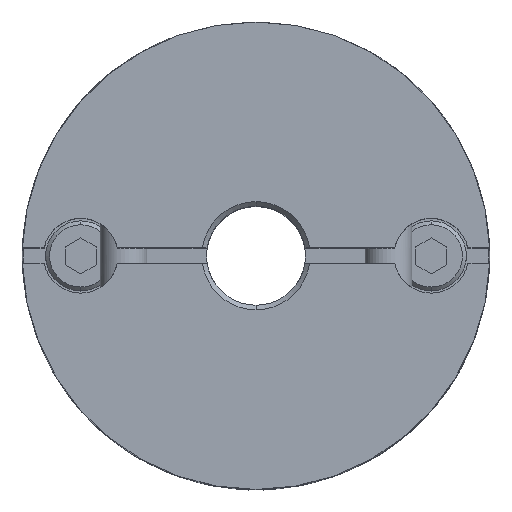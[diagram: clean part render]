
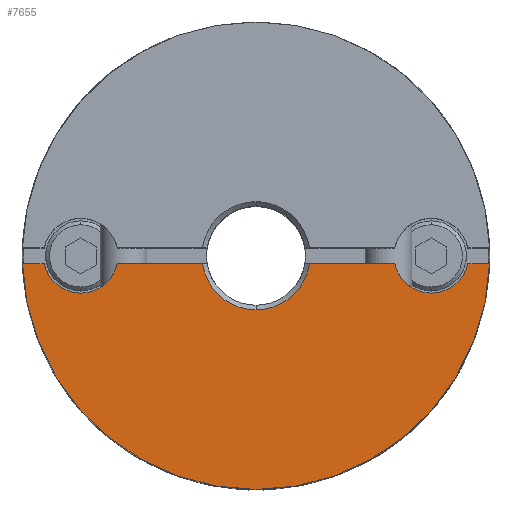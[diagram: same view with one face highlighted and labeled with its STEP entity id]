
A CAD part, top view. The second image highlights one B-rep face of the part: STEP entity #7655.
In plain terms, the highlighted planar face has unit normal (0, 0, 1).
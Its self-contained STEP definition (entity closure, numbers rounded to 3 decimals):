
#622=CARTESIAN_POINT('',(0.,-15.0,11.8));
#623=VERTEX_POINT('',#622);
#630=CARTESIAN_POINT('',(-14.992,-0.5,11.8));
#631=VERTEX_POINT('',#630);
#632=CARTESIAN_POINT('',(0.0,0.0,11.8));
#633=DIRECTION('',(0.0,0.0,-1.0));
#634=DIRECTION('',(0.0,1.0,0.0));
#635=AXIS2_PLACEMENT_3D('',#632,#633,#634);
#636=CIRCLE('',#635,15.0);
#637=EDGE_CURVE('',#623,#631,#636,.T.);
#1032=CARTESIAN_POINT('',(0.,-3.475,11.8));
#1033=VERTEX_POINT('',#1032);
#1041=CARTESIAN_POINT('',(-3.439,-0.5,11.8));
#1042=VERTEX_POINT('',#1041);
#1056=CARTESIAN_POINT('',(0.0,0.0,11.8));
#1057=DIRECTION('',(0.0,0.0,1.0));
#1058=DIRECTION('',(0.0,-1.0,0.0));
#1059=AXIS2_PLACEMENT_3D('',#1056,#1057,#1058);
#1060=CIRCLE('',#1059,3.475);
#1061=EDGE_CURVE('',#1042,#1033,#1060,.T.);
#1353=CARTESIAN_POINT('',(-11.25,-2.4,11.8));
#1354=VERTEX_POINT('',#1353);
#1370=CARTESIAN_POINT('',(-13.597,-0.5,11.8));
#1371=VERTEX_POINT('',#1370);
#1378=CARTESIAN_POINT('',(-11.25,0.,11.8));
#1379=DIRECTION('',(0.0,0.0,-1.0));
#1380=DIRECTION('',(0.0,1.0,0.0));
#1381=AXIS2_PLACEMENT_3D('',#1378,#1379,#1380);
#1382=CIRCLE('',#1381,2.4);
#1383=EDGE_CURVE('',#1354,#1371,#1382,.T.);
#1585=CARTESIAN_POINT('',(11.25,-2.4,11.8));
#1586=VERTEX_POINT('',#1585);
#1652=CARTESIAN_POINT('',(8.903,-0.5,11.8));
#1653=VERTEX_POINT('',#1652);
#1660=CARTESIAN_POINT('',(11.25,0.,11.8));
#1661=DIRECTION('',(0.0,0.0,-1.0));
#1662=DIRECTION('',(0.0,1.0,0.0));
#1663=AXIS2_PLACEMENT_3D('',#1660,#1661,#1662);
#1664=CIRCLE('',#1663,2.4);
#1665=EDGE_CURVE('',#1586,#1653,#1664,.T.);
#6153=CARTESIAN_POINT('',(13.597,-0.5,11.8));
#6154=VERTEX_POINT('',#6153);
#6155=CARTESIAN_POINT('',(11.25,0.,11.8));
#6156=DIRECTION('',(0.0,0.0,-1.0));
#6157=DIRECTION('',(0.0,1.0,0.0));
#6158=AXIS2_PLACEMENT_3D('',#6155,#6156,#6157);
#6159=CIRCLE('',#6158,2.4);
#6160=EDGE_CURVE('',#6154,#1586,#6159,.T.);
#6560=CARTESIAN_POINT('',(-8.903,-0.5,11.8));
#6561=VERTEX_POINT('',#6560);
#6562=CARTESIAN_POINT('',(-11.25,0.,11.8));
#6563=DIRECTION('',(0.0,0.0,-1.0));
#6564=DIRECTION('',(0.0,1.0,0.0));
#6565=AXIS2_PLACEMENT_3D('',#6562,#6563,#6564);
#6566=CIRCLE('',#6565,2.4);
#6567=EDGE_CURVE('',#6561,#1354,#6566,.T.);
#6690=CARTESIAN_POINT('',(-3.439,-0.5,11.8));
#6691=DIRECTION('',(-1.0,0.0,0.0));
#6692=VECTOR('',#6691,5.464);
#6693=LINE('',#6690,#6692);
#6694=EDGE_CURVE('',#1042,#6561,#6693,.T.);
#6807=CARTESIAN_POINT('',(3.439,-0.5,11.8));
#6808=VERTEX_POINT('',#6807);
#6822=CARTESIAN_POINT('',(8.903,-0.5,11.8));
#6823=DIRECTION('',(-1.0,0.0,0.0));
#6824=VECTOR('',#6823,5.464);
#6825=LINE('',#6822,#6824);
#6826=EDGE_CURVE('',#1653,#6808,#6825,.T.);
#7402=CARTESIAN_POINT('',(14.992,-0.5,11.8));
#7403=VERTEX_POINT('',#7402);
#7404=CARTESIAN_POINT('',(14.992,-0.5,11.8));
#7405=DIRECTION('',(-1.0,0.0,0.0));
#7406=VECTOR('',#7405,1.394);
#7407=LINE('',#7404,#7406);
#7408=EDGE_CURVE('',#7403,#6154,#7407,.T.);
#7522=CARTESIAN_POINT('',(-13.597,-0.5,11.8));
#7523=DIRECTION('',(-1.0,0.0,0.0));
#7524=VECTOR('',#7523,1.394);
#7525=LINE('',#7522,#7524);
#7526=EDGE_CURVE('',#1371,#631,#7525,.T.);
#7624=CARTESIAN_POINT('',(0.,1.364,11.8));
#7625=DIRECTION('',(0.0,0.0,1.0));
#7626=DIRECTION('',(0.0,1.0,0.0));
#7627=AXIS2_PLACEMENT_3D('',#7624,#7625,#7626);
#7628=PLANE('',#7627);
#7629=ORIENTED_EDGE('',*,*,#6160,.T.);
#7630=ORIENTED_EDGE('',*,*,#1665,.T.);
#7631=ORIENTED_EDGE('',*,*,#6826,.T.);
#7632=CARTESIAN_POINT('',(0.0,0.0,11.8));
#7633=DIRECTION('',(0.0,0.0,1.0));
#7634=DIRECTION('',(0.0,-1.0,0.0));
#7635=AXIS2_PLACEMENT_3D('',#7632,#7633,#7634);
#7636=CIRCLE('',#7635,3.475);
#7637=EDGE_CURVE('',#1033,#6808,#7636,.T.);
#7638=ORIENTED_EDGE('',*,*,#7637,.F.);
#7639=ORIENTED_EDGE('',*,*,#1061,.F.);
#7640=ORIENTED_EDGE('',*,*,#6694,.T.);
#7641=ORIENTED_EDGE('',*,*,#6567,.T.);
#7642=ORIENTED_EDGE('',*,*,#1383,.T.);
#7643=ORIENTED_EDGE('',*,*,#7526,.T.);
#7644=ORIENTED_EDGE('',*,*,#637,.F.);
#7645=CARTESIAN_POINT('',(0.0,0.0,11.8));
#7646=DIRECTION('',(0.0,0.0,-1.0));
#7647=DIRECTION('',(0.0,1.0,0.0));
#7648=AXIS2_PLACEMENT_3D('',#7645,#7646,#7647);
#7649=CIRCLE('',#7648,15.0);
#7650=EDGE_CURVE('',#7403,#623,#7649,.T.);
#7651=ORIENTED_EDGE('',*,*,#7650,.F.);
#7652=ORIENTED_EDGE('',*,*,#7408,.T.);
#7653=EDGE_LOOP('',(#7629,#7630,#7631,#7638,#7639,#7640,#7641,#7642,#7643,#7644,#7651,#7652));
#7654=FACE_OUTER_BOUND('',#7653,.T.);
#7655=ADVANCED_FACE('',(#7654),#7628,.T.);
